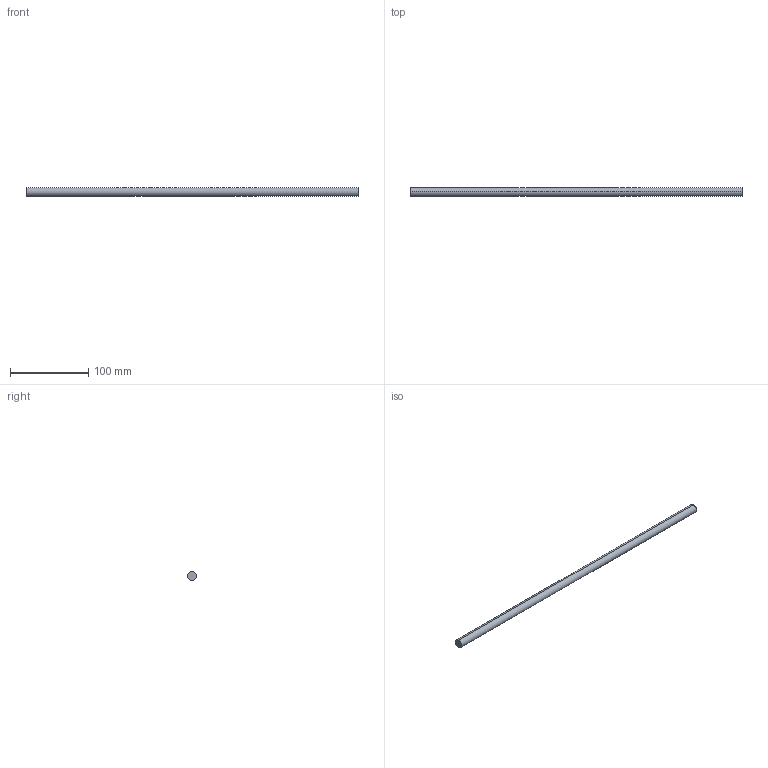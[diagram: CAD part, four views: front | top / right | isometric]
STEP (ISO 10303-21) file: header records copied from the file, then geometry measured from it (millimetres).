
FILE_DESCRIPTION (( 'STEP AP214' ), '1' );
FILE_NAME ('Querreling_2S-Rel_7102_25mm-Halter_KAB-550.step', '2010-09-22T15:06:04', ( 'grass' ), ( '' ), 'SwSTEP 2.0', 'SolidWorks 2010', '' );
FILE_SCHEMA (( 'AUTOMOTIVE_DESIGN' ));
Length unit declared in the file: millimetre
Products named in the file (1): Querreling_2S-Rel_7102_25mm-Halter_KAB-550
Bounding box: 424 x 11 x 11 mm (x, y, z)
Volume: 40294.1 mm3; surface area: 14842.5 mm2
Topology: 1 solids, 1 shells, 4 faces, 6 edges, 4 vertices
Faces by surface type: cylinder 2, plane 2
Entity records: 128 total; most frequent: DIRECTION 20, CARTESIAN_POINT 15, ORIENTED_EDGE 12, AXIS2_PLACEMENT_3D 9, EDGE_CURVE 6, CIRCLE 4, FACE_OUTER_BOUND 4, EDGE_LOOP 4
